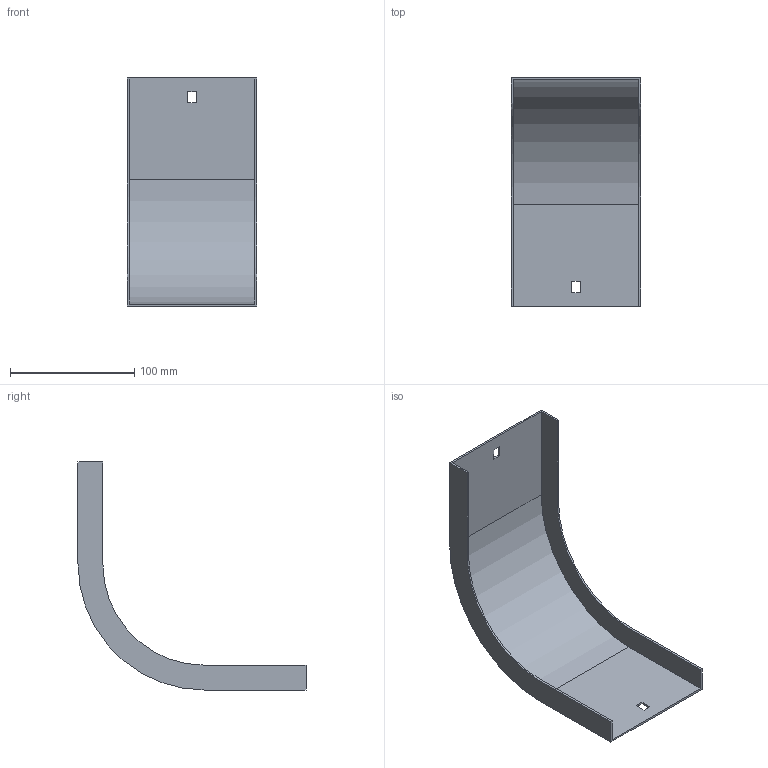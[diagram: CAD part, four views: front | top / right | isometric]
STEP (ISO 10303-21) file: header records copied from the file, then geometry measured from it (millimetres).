
FILE_DESCRIPTION (( 'STEP AP214' ), '1' );
FILE_NAME ('33G1B100.step', '2025-02-21T12:44:14', ( '' ), ( '' ), 'SwSTEP 2.0', 'SolidWorks 2023', '' );
FILE_SCHEMA (( 'AUTOMOTIVE_DESIGN' ));
Length unit declared in the file: millimetre
Products named in the file (1): 33G1B100
Bounding box: 104 x 183.5 x 183.5 mm (x, y, z)
Volume: 67110.2 mm3; surface area: 90875.9 mm2
Topology: 1 solids, 1 shells, 26 faces, 72 edges, 48 vertices
Faces by surface type: plane 22, cylinder 4
Entity records: 855 total; most frequent: CARTESIAN_POINT 147, ORIENTED_EDGE 144, DIRECTION 134, EDGE_CURVE 72, LINE 64, VECTOR 64, VERTEX_POINT 48, AXIS2_PLACEMENT_3D 35
